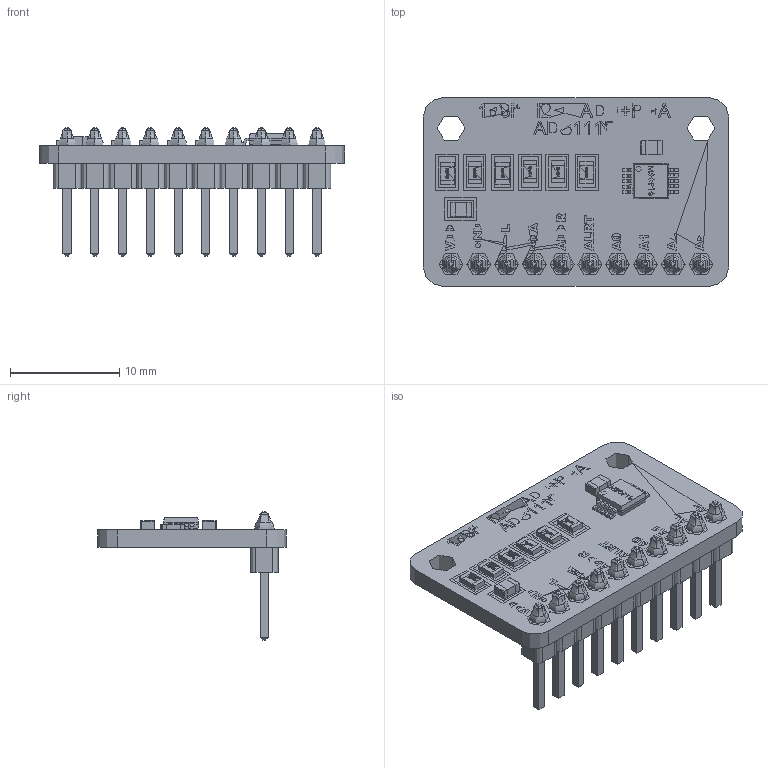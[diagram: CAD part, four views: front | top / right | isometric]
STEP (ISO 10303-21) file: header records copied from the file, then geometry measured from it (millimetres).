
FILE_DESCRIPTION (( 'STEP AP214' ), '1' );
FILE_NAME ('User Library-ADS1115_3D_01 v3.STEP', '2021-11-09T08:18:36', ( '' ), ( '' ), 'SwSTEP 2.0', 'SolidWorks 2021', '' );
FILE_SCHEMA (( 'AUTOMOTIVE_DESIGN' ));
Length unit declared in the file: millimetre
Products named in the file (11): mini-solder-1; 12pin_header; Component10; MSOP10; 0805 Capacitor; User Library-16Bit I2C ADC+PGA - ADS1115 v1; User Library-ADS1115_3D_01 v3; ADS1115; 0805 Resistor; 0805 Inductor
Assembly tree (15 placements, depth 4):
  User Library-ADS1115_3D_01 v3
    mini-solder-1
    12pin_header
    User Library-16Bit I2C ADC+PGA - ADS1115 v1
      ADS1115
        ADS1115
        Component10
      0805 Capacitor  x2
      0805 Inductor  x2
      0805 Resistor  x4
      MSOP10
Bounding box: 27.94 x 17.27 x 11.75 mm (x, y, z)
Topology: 14 solids, 149 shells, 1403 faces, 3469 edges, 2322 vertices
Faces by surface type: plane 1060, bspline 197, cylinder 124, torus 20, cone 2
Entity records: 60818 total; most frequent: CARTESIAN_POINT 19093, ORIENTED_EDGE 5860, DIRECTION 4861, EDGE_CURVE 3059, VECTOR 2035, LINE 2035, VERTEX_POINT 2030, AXIS2_PLACEMENT_3D 1413
